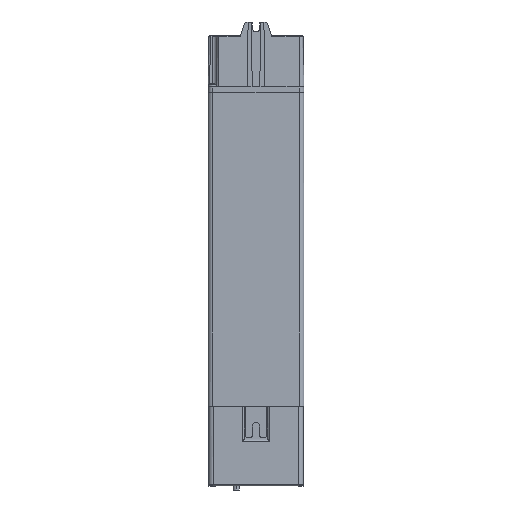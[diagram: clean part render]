
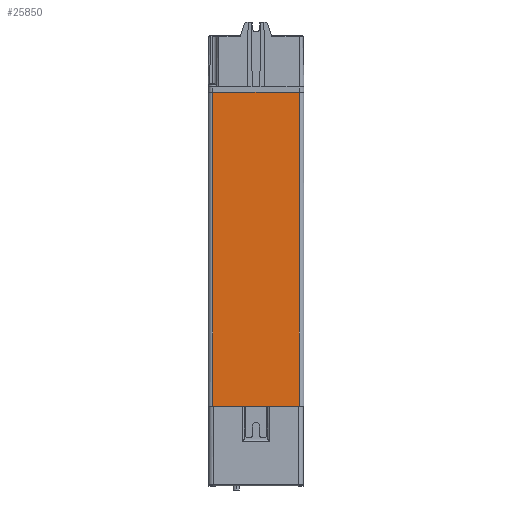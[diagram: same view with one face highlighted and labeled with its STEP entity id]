
A CAD part, front view. The second image highlights one B-rep face of the part: STEP entity #25850.
In plain terms, the highlighted planar face has unit normal (0, -1, 0).
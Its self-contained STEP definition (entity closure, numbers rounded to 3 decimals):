
#1134=DIRECTION('',(1.,0.,0.));
#1135=VECTOR('',#1134,56.);
#1136=CARTESIAN_POINT('',(-28.,-19.25,203.));
#1137=LINE('',#1136,#1135);
#5349=DIRECTION('',(1.,0.,0.));
#5350=VECTOR('',#5349,56.);
#5351=CARTESIAN_POINT('',(-28.,-19.25,0.));
#5352=LINE('',#5351,#5350);
#5749=DIRECTION('',(0.,0.,-1.));
#5750=VECTOR('',#5749,203.);
#5751=CARTESIAN_POINT('',(-28.,-19.25,203.));
#5752=LINE('',#5751,#5750);
#5753=DIRECTION('',(0.,0.,-1.));
#5754=VECTOR('',#5753,203.);
#5755=CARTESIAN_POINT('',(28.,-19.25,203.));
#5756=LINE('',#5755,#5754);
#17423=CARTESIAN_POINT('',(-28.,-19.25,203.));
#17424=CARTESIAN_POINT('',(-28.,-19.25,0.));
#17425=VERTEX_POINT('',#17423);
#17426=VERTEX_POINT('',#17424);
#17427=CARTESIAN_POINT('',(28.,-19.25,203.));
#17428=CARTESIAN_POINT('',(28.,-19.25,0.));
#17429=VERTEX_POINT('',#17427);
#17430=VERTEX_POINT('',#17428);
#25837=CARTESIAN_POINT('',(-31.,-19.25,0.));
#25838=DIRECTION('',(0.,-1.,0.));
#25839=DIRECTION('',(1.,0.,0.));
#25840=AXIS2_PLACEMENT_3D('',#25837,#25838,#25839);
#25841=PLANE('',#25840);
#25842=ORIENTED_EDGE('',*,*,#25605,.F.);
#25844=ORIENTED_EDGE('',*,*,#25843,.F.);
#25845=ORIENTED_EDGE('',*,*,#20558,.T.);
#25847=ORIENTED_EDGE('',*,*,#25846,.T.);
#25848=EDGE_LOOP('',(#25842,#25844,#25845,#25847));
#25849=FACE_OUTER_BOUND('',#25848,.F.);
#20558=EDGE_CURVE('',#17425,#17429,#1137,.T.);
#25605=EDGE_CURVE('',#17426,#17430,#5352,.T.);
#25843=EDGE_CURVE('',#17425,#17426,#5752,.T.);
#25846=EDGE_CURVE('',#17429,#17430,#5756,.T.);
#25850=ADVANCED_FACE('',(#25849),#25841,.T.);
